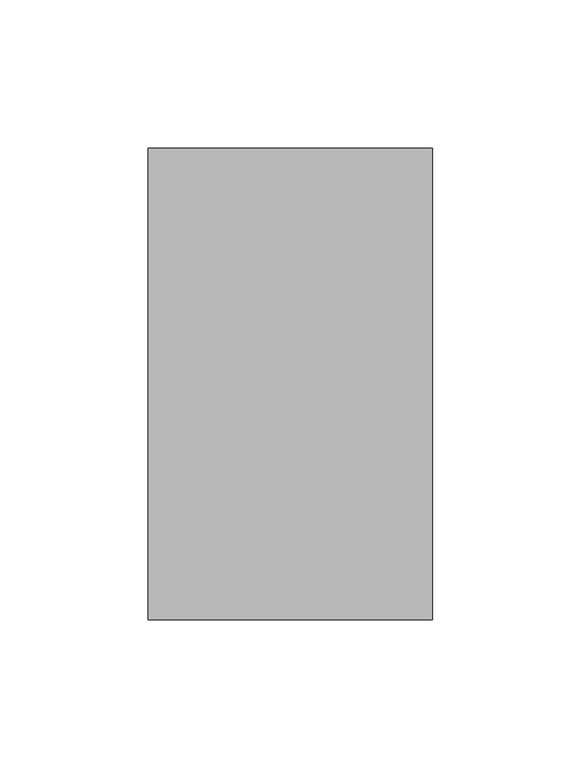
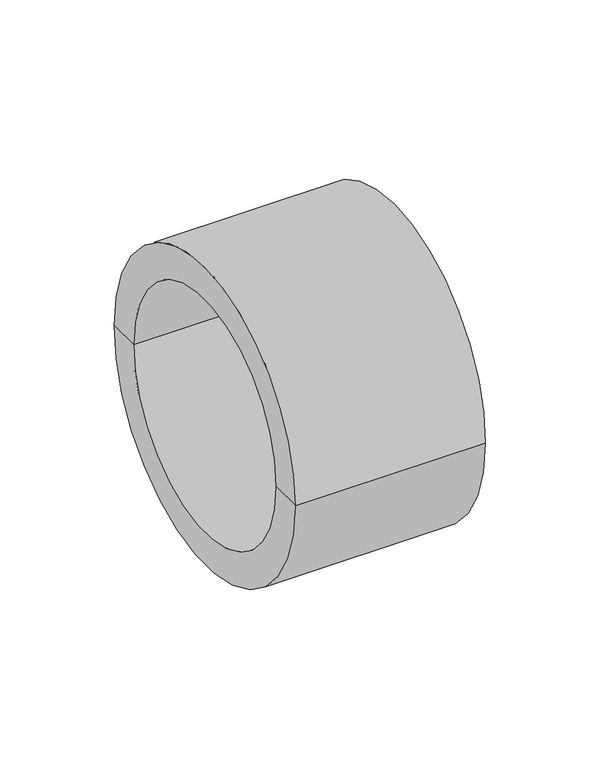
"""IFC4 building model written with IfcOpenShell, lengths in millimetres: pipe fitting geometry, EGB_VASEN_ PPR_Tapon WXR700 : Tapón WXR700."""

import ifcopenshell
import ifcopenshell.guid

model = None  # the IFC model being written
_history = None  # IfcOwnerHistory: only IFC2X3 demands one
_inside = {}  # id of a spatial element -> (the spatial element, [elements in it])
_under = {}  # id of a project, library or spatial element -> (it, [spatial elements below it])
_declared = {}  # id of a project -> (the project, [libraries it declares])
_typed = {}  # id of a type object -> (the type object, [elements of that type])
_made_of = {}  # id of a material, layer set ... -> (it, [elements and type objects made of it])


def new_model(schema):
    """Start an empty IFC model of exactly this schema.

    Asked for "IFC4X3", IfcOpenShell would pick the latest addendum, in which some entities
    have other attributes; the version numbers below select the first issue.
    IFC2X3 requires an IfcOwnerHistory on every rooted entity: one is made here for all.
    """
    global model, _history
    if schema == "IFC4X3":
        model = ifcopenshell.file(schema_version=(4, 3, 0, 0))
    else:
        model = ifcopenshell.file(schema=schema)
    _inside.clear()
    _under.clear()
    _declared.clear()
    _typed.clear()
    _made_of.clear()
    _history = None
    if model.schema == "IFC2X3":
        org = make("IfcOrganization", Name="unknown")
        user = make(
            "IfcPersonAndOrganization",
            ThePerson=make("IfcPerson", FamilyName="unknown"),
            TheOrganization=org,
        )
        app = make(
            "IfcApplication",
            ApplicationDeveloper=org,
            Version="unknown",
            ApplicationFullName="unknown",
            ApplicationIdentifier="unknown",
        )
        _history = make(
            "IfcOwnerHistory",
            OwningUser=user,
            OwningApplication=app,
            ChangeAction="ADDED",
            CreationDate=0,
        )
    return model


def make(cls, **values):
    """One entity of the class cls with the attributes given. An attribute that is None is left unset."""
    return model.create_entity(
        cls, **{name: value for name, value in values.items() if value is not None}
    )


def rooted(cls, **values):
    """An entity with a GlobalId (a new one), such as an element, a storey or a relation."""
    return make(cls, GlobalId=ifcopenshell.guid.new(), OwnerHistory=_history, **values)


def si_unit(unit_type, name, prefix=None):
    """IfcSIUnit, for example si_unit("LENGTHUNIT", "METRE", prefix="MILLI")."""
    return make("IfcSIUnit", UnitType=unit_type, Prefix=prefix, Name=name)


def assignment(units):
    """IfcUnitAssignment: the units of a project."""
    return None if units is None else make("IfcUnitAssignment", Units=units)


def point(xyz):
    """IfcCartesianPoint."""
    return None if xyz is None else make("IfcCartesianPoint", Coordinates=xyz)


def direction(xyz):
    """IfcDirection."""
    return None if xyz is None else make("IfcDirection", DirectionRatios=xyz)


def frame(location, z_axis=None, x_axis=None):
    """IfcAxis2Placement3D, a coordinate frame: its origin and axes. An axis left out is left unset."""
    return make(
        "IfcAxis2Placement3D",
        Location=point(location),
        Axis=direction(z_axis),
        RefDirection=direction(x_axis),
    )


def origin():
    """The frame at (0, 0, 0) with its axes left unset."""
    return frame((0.0, 0.0, 0.0))


def place(relative_to, where):
    """IfcLocalPlacement: puts the frame where relative to a parent placement (None: the world)."""
    return make(
        "IfcLocalPlacement", PlacementRelTo=relative_to, RelativePlacement=where
    )


def context(
    kind, dimensions, precision=None, world=None, true_north=None, identifier=None
):
    """IfcGeometricRepresentationContext, for example the 3D "Model" context."""
    return make(
        "IfcGeometricRepresentationContext",
        ContextIdentifier=identifier,
        ContextType=kind,
        CoordinateSpaceDimension=dimensions,
        Precision=precision,
        WorldCoordinateSystem=world,
        TrueNorth=true_north,
    )


def project(units=None, contexts=None):
    """IfcProject with its units and contexts."""
    return rooted(
        "IfcProject",
        Name="project",
        RepresentationContexts=contexts,
        UnitsInContext=assignment(units),
    )


def spatial(cls, under=None, at=None, **own):
    """A site, building, storey or space (cls), placed at a placement, below another one or the project."""
    s = rooted(cls, ObjectPlacement=at, **own)
    if under is not None:
        _under.setdefault(under.id(), (under, []))[1].append(s)
    return s


def polyline(points):
    """IfcPolyline through the points."""
    return make("IfcPolyline", Points=[point(p) for p in points])


def circle_curve(where, radius):
    """IfcCircle in the frame where."""
    return make("IfcCircle", Position=where, Radius=radius)


def shape(context_of_items, identifier, shape_type, items):
    """IfcShapeRepresentation: the items that make up one representation, for example the "Body"."""
    return make(
        "IfcShapeRepresentation",
        ContextOfItems=context_of_items,
        RepresentationIdentifier=identifier,
        RepresentationType=shape_type,
        Items=items,
    )


def source(mapping_origin, context_of_items, identifier, shape_type, items):
    """IfcRepresentationMap: a shape defined once, which mapped items show again and again."""
    return make(
        "IfcRepresentationMap",
        MappingOrigin=mapping_origin,
        MappedRepresentation=shape(context_of_items, identifier, shape_type, items),
    )


def transform(
    local_origin,
    x_axis=None,
    y_axis=None,
    z_axis=None,
    scale=None,
    scale2=None,
    scale3=None,
    uniform=True,
):
    """IfcCartesianTransformationOperator3D, or its non-uniform kind. x_axis, y_axis, z_axis: its Axis1, 2, 3."""
    if uniform:
        return make(
            "IfcCartesianTransformationOperator3D",
            Axis1=direction(x_axis),
            Axis2=direction(y_axis),
            LocalOrigin=point(local_origin),
            Scale=scale,
            Axis3=direction(z_axis),
        )
    return make(
        "IfcCartesianTransformationOperator3DnonUniform",
        Axis1=direction(x_axis),
        Axis2=direction(y_axis),
        LocalOrigin=point(local_origin),
        Scale=scale,
        Axis3=direction(z_axis),
        Scale2=scale2,
        Scale3=scale3,
    )


def mapped(mapping_source, mapping_target):
    """IfcMappedItem: shows the shape of a source again, moved by a transform."""
    return make(
        "IfcMappedItem", MappingSource=mapping_source, MappingTarget=mapping_target
    )


def made_of(thing, what):
    """Note that an element or type object is made of a material, layer set ...; save() writes the relation."""
    if what is not None:
        _made_of.setdefault(what.id(), (what, []))[1].append(thing)
    return thing


def element(
    cls,
    number,
    at=None,
    inside=None,
    cuts=None,
    type_object=None,
    material=None,
    context=None,
    identifier="Body",
    shape_type=None,
    held_by="IfcProductDefinitionShape",
    body=None,
    shapes=None,
    **own,
):
    """One element of the class cls, such as IfcWall. Its Tag is "e" and its number.

    at: its placement. inside: the storey or other place that contains it. cuts: it is an
    opening in that element (IfcRelVoidsElement). A single representation is given by context,
    identifier, shape_type and body (its items); several are given by shapes. held_by: the class
    of the entity that holds the representations. save() writes the other relations.
    """
    e = rooted(cls, Tag="e%d" % number, ObjectPlacement=at, **own)
    if body is not None:
        shapes = [shape(context, identifier, shape_type, body)]
    if shapes is not None:
        e.Representation = make(held_by, Representations=shapes)
    if inside is not None:
        _inside.setdefault(inside.id(), (inside, []))[1].append(e)
    if cuts is not None:
        rooted(
            "IfcRelVoidsElement", RelatingBuildingElement=cuts, RelatedOpeningElement=e
        )
    if type_object is not None:
        _typed.setdefault(type_object.id(), (type_object, []))[1].append(e)
    return made_of(e, material)


def aggregate(whole, parts):
    """IfcRelAggregates: a whole, such as a stair, and the parts it consists of."""
    return rooted("IfcRelAggregates", RelatingObject=whole, RelatedObjects=parts)


def save(model, path):
    """Write the relations noted so far, then the file.

    IfcRelAggregates (storeys below a building ...), IfcRelContainedInSpatialStructure (elements
    in a storey), IfcRelDefinesByType, IfcRelAssociatesMaterial and IfcRelDeclares: one each for
    every whole, place, type object, material and project.
    """
    for whole, parts in _under.values():
        aggregate(whole, parts)
    for where, things in _inside.values():
        rooted(
            "IfcRelContainedInSpatialStructure",
            RelatedElements=things,
            RelatingStructure=where,
        )
    for kind, things in _typed.values():
        rooted("IfcRelDefinesByType", RelatedObjects=things, RelatingType=kind)
    for what, things in _made_of.values():
        rooted("IfcRelAssociatesMaterial", RelatedObjects=things, RelatingMaterial=what)
    for by, libraries in _declared.values():
        rooted("IfcRelDeclares", RelatingContext=by, RelatedDefinitions=libraries)
    model.write(path)


def plane_surface(at):
    """IfcPlane: the flat surface through the origin of the frame at, square to its z axis."""
    return make("IfcPlane", Position=at)


def cylinder_surface(at, radius):
    """IfcCylindricalSurface: all points at the distance radius from the z axis of the frame at."""
    return make("IfcCylindricalSurface", Position=at, Radius=radius)


def revolved_surface(curve, axis_point, axis_direction):
    """IfcSurfaceOfRevolution: the curve turned about the line through axis_point along axis_direction."""
    return make(
        "IfcSurfaceOfRevolution",
        SweptCurve=make("IfcArbitraryOpenProfileDef", ProfileType="CURVE", Curve=curve),
        AxisPosition=make("IfcAxis1Placement", Location=point(axis_point), Axis=direction(axis_direction)),
    )


def advanced_brep(points, edges, surfaces, faces):
    """IfcAdvancedBrep: a solid bounded by faces that lie on surfaces and meet in shared edges.

    An edge is (start, end): straight between two places in points (the first is 0);
    or (start, end, curve); or (start, end, curve, False) where it runs against its curve.
    A face is (place in surfaces, loops), or (place, loops, False) where it looks against
    its surface's normal. A loop lists edges by number (the first is 1), with a minus sign
    where the edge is run from its end to its start. The first loop is the outer one.
    """
    corners = [point(p) for p in points]
    vertices = [make("IfcVertexPoint", VertexGeometry=c) for c in corners]
    made = []
    for start, end, *more in edges:
        made.append(
            make(
                "IfcEdgeCurve",
                EdgeStart=vertices[start],
                EdgeEnd=vertices[end],
                EdgeGeometry=more[0] if more else make("IfcPolyline", Points=[corners[start], corners[end]]),
                SameSense=more[1] if len(more) > 1 else True,
            )
        )
    hull = []
    for where, loops, *sense in faces:
        bounds = []
        for j, loop in enumerate(loops):
            ring = [make("IfcOrientedEdge", EdgeElement=made[abs(k) - 1], Orientation=k > 0) for k in loop]
            bounds.append(
                make(
                    "IfcFaceOuterBound" if j == 0 else "IfcFaceBound",
                    Bound=make("IfcEdgeLoop", EdgeList=ring),
                    Orientation=True,
                )
            )
        hull.append(make("IfcAdvancedFace", Bounds=bounds, FaceSurface=surfaces[where], SameSense=sense[0] if sense else True))
    return make("IfcAdvancedBrep", Outer=make("IfcClosedShell", CfsFaces=hull))


def pipe_fitting_569d5a68(model_context):
    return source(origin(), model_context, "Body", "AdvancedBrep", [
        advanced_brep(
        [(0.0, -79.5, 0.0), (0.0, 79.5, 0.0), (96.0, 79.5, 0.0), (96.0, -79.5, 0.0), (0.0, -62.5, 0.0), (0.0, 62.5, 0.0), (79.0, -62.5, 0.0), (79.0, 62.5, 0.0), (79.0, 0.0, 0.0), (96.0, 0.0, 0.0)],
        [
            (0, 1, circle_curve(frame((0.0, 0.0, 0.0), z_axis=(1.0, 0.0, 0.0), x_axis=(0.0, 1.0, 0.0)), 79.5)),
            (1, 2),
            (2, 3, circle_curve(frame((96.0, 0.0, 0.0), z_axis=(-1.0, 0.0, 0.0), x_axis=(0.0, 1.0, 0.0)), 79.5)),
            (3, 0),
            (1, 0, circle_curve(frame((0.0, 0.0, 0.0), z_axis=(1.0, 0.0, 0.0), x_axis=(0.0, 1.0, 0.0)), 79.5)),
            (3, 2, circle_curve(frame((96.0, 0.0, 0.0), z_axis=(-1.0, 0.0, 0.0), x_axis=(0.0, 1.0, 0.0)), 79.5)),
            (4, 5, circle_curve(frame((0.0, 0.0, 0.0), z_axis=(1.0, 0.0, 0.0), x_axis=(0.0, 1.0, 0.0)), 62.5)),
            (5, 1),
            (0, 4),
            (5, 4, circle_curve(frame((0.0, 0.0, 0.0), z_axis=(1.0, 0.0, 0.0), x_axis=(0.0, 1.0, 0.0)), 62.5)),
            (6, 7, circle_curve(frame((79.0, 0.0, 0.0), z_axis=(1.0, 0.0, 0.0), x_axis=(0.0, 1.0, 0.0)), 62.5)),
            (7, 5),
            (4, 6),
            (7, 6, circle_curve(frame((79.0, 0.0, 0.0), z_axis=(1.0, 0.0, 0.0), x_axis=(0.0, 1.0, 0.0)), 62.5)),
            (8, 7),
            (6, 8),
            (2, 9),
            (9, 3),
        ],
        [
            cylinder_surface(frame((72.258615, 0.0, 0.0), z_axis=(-1.0, 0.0, 0.0), x_axis=(0.0, 1.0, 0.0)), 79.5),
            plane_surface(frame((0.0, 0.0, 0.0), z_axis=(-1.0, 0.0, 0.0), x_axis=(0.0, 1.0, 0.0))),
            revolved_surface(polyline([(0.0, 62.5, 0.0), (79.0, 62.5, 0.0)]), (72.258615, 0.0, 0.0), (-1.0, 0.0, 0.0)),
            plane_surface(frame((79.0, 0.0, 0.0), z_axis=(-1.0, 0.0, 0.0), x_axis=(0.0, 1.0, 0.0))),
            plane_surface(frame((96.0, 0.0, 0.0), z_axis=(1.0, 0.0, 0.0), x_axis=(0.0, 1.0, 0.0))),
        ],
        [
            (0, [[1, 2, 3, 4]]),
            (0, [[5, -4, 6, -2]]),
            (1, [[7, 8, -1, 9]]),
            (1, [[10, -9, -5, -8]]),
            (2, [[11, 12, -7, 13]]),
            (2, [[14, -13, -10, -12]]),
            (3, [[15, -11, 16]]),
            (3, [[-16, -14, -15]]),
            (4, [[-3, 17, 18]]),
            (4, [[-6, -18, -17]]),
        ],
    ),
    ])


if __name__ == "__main__":
    model = new_model("IFC4")
    model_context = context("Model", 3, world=origin())
    ifc_project = project(units=[si_unit("LENGTHUNIT", "METRE", prefix="MILLI")], contexts=[model_context])
    site = spatial("IfcSite", under=ifc_project)
    building = spatial("IfcBuilding", under=site)
    placement = place(None, origin())
    pipe_fitting_shape = pipe_fitting_569d5a68(model_context)
    element("IfcPipeFitting", 1, ObjectType="EGB_VASEN_ PPR_Tapon WXR700 : Tapón WXR700", at=placement, inside=building, context=model_context, shape_type="MappedRepresentation", body=[
        mapped(pipe_fitting_shape, transform((0.0, 0.0, 0.0), x_axis=(1.0, 0.0, 0.0), y_axis=(0.0, 1.0, 0.0), z_axis=(0.0, 0.0, 1.0))),
    ])
    save(model, "model.ifc")
